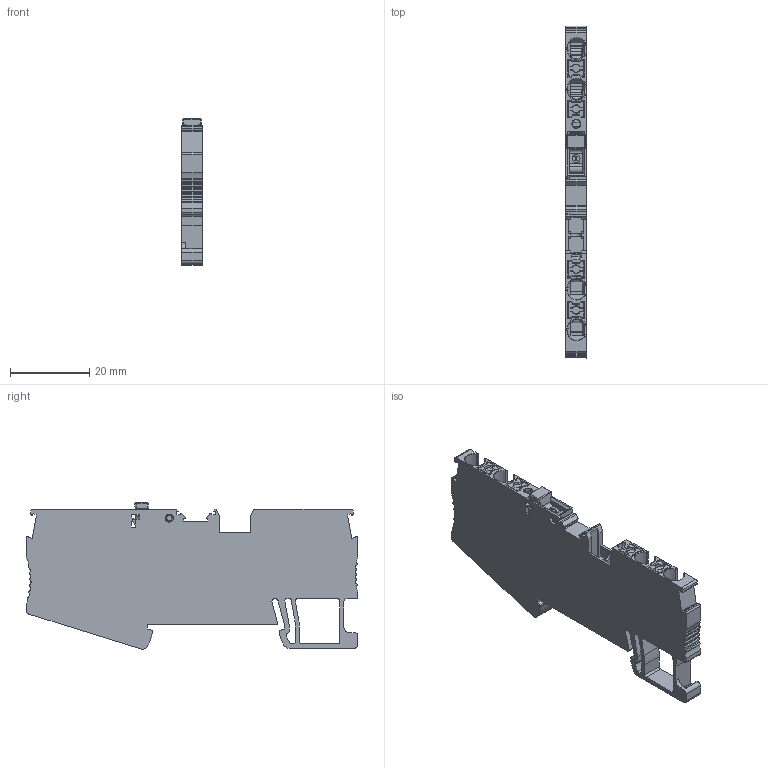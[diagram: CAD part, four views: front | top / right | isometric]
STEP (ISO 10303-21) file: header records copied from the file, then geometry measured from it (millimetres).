
FILE_DESCRIPTION(/* description */ (''),/* implementation_level */ '2;1');
FILE_NAME(/* name */ 'UPT-2.5-2-2K ASSY.stp',/* time_stamp */ '2024-04-26T14:28:28+08:00',/* author */ (''),/* organization */ (''),/* preprocessor_version */ 'ST-DEVELOPER v16.7',/* originating_system */ 'SIEMENS PLM Software NX 12.0',/* authorisation */ '');
FILE_SCHEMA (('AUTOMOTIVE_DESIGN { 1 0 10303 214 3 1 1 1 }'));
Length unit declared in the file: millimetre
Products named in the file (1): Admi0EB4BAB8ixi0
Bounding box: 5.2 x 84 x 37.03 mm (x, y, z)
Volume: 10955.7 mm3; surface area: 8623 mm2
Topology: 1 solids, 1 shells, 997 faces, 2862 edges, 1864 vertices
Faces by surface type: plane 568, cylinder 328, bspline 34, cone 30, torus 27, extrusion 10
Entity records: 36729 total; most frequent: CARTESIAN_POINT 10603, ORIENTED_EDGE 5700, DIRECTION 5212, EDGE_CURVE 2850, VECTOR 1924, LINE 1914, VERTEX_POINT 1862, AXIS2_PLACEMENT_3D 1644
